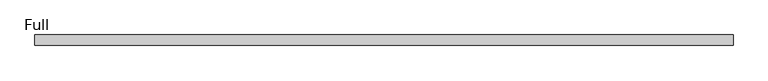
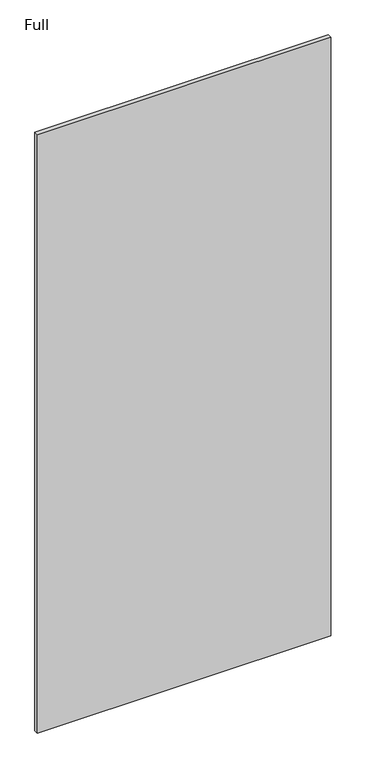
"""IFC4 building model written with IfcOpenShell, lengths in millimetres: proxy geometry, Panel-Fascia-Teknion-Altos-Standard : Full."""

import ifcopenshell
import ifcopenshell.guid

model = None  # the IFC model being written
_history = None  # IfcOwnerHistory: only IFC2X3 demands one
_inside = {}  # id of a spatial element -> (the spatial element, [elements in it])
_under = {}  # id of a project, library or spatial element -> (it, [spatial elements below it])
_declared = {}  # id of a project -> (the project, [libraries it declares])
_typed = {}  # id of a type object -> (the type object, [elements of that type])
_made_of = {}  # id of a material, layer set ... -> (it, [elements and type objects made of it])


def new_model(schema):
    """Start an empty IFC model of exactly this schema.

    Asked for "IFC4X3", IfcOpenShell would pick the latest addendum, in which some entities
    have other attributes; the version numbers below select the first issue.
    IFC2X3 requires an IfcOwnerHistory on every rooted entity: one is made here for all.
    """
    global model, _history
    if schema == "IFC4X3":
        model = ifcopenshell.file(schema_version=(4, 3, 0, 0))
    else:
        model = ifcopenshell.file(schema=schema)
    _inside.clear()
    _under.clear()
    _declared.clear()
    _typed.clear()
    _made_of.clear()
    _history = None
    if model.schema == "IFC2X3":
        org = make("IfcOrganization", Name="unknown")
        user = make(
            "IfcPersonAndOrganization",
            ThePerson=make("IfcPerson", FamilyName="unknown"),
            TheOrganization=org,
        )
        app = make(
            "IfcApplication",
            ApplicationDeveloper=org,
            Version="unknown",
            ApplicationFullName="unknown",
            ApplicationIdentifier="unknown",
        )
        _history = make(
            "IfcOwnerHistory",
            OwningUser=user,
            OwningApplication=app,
            ChangeAction="ADDED",
            CreationDate=0,
        )
    return model


def make(cls, **values):
    """One entity of the class cls with the attributes given. An attribute that is None is left unset."""
    return model.create_entity(
        cls, **{name: value for name, value in values.items() if value is not None}
    )


def rooted(cls, **values):
    """An entity with a GlobalId (a new one), such as an element, a storey or a relation."""
    return make(cls, GlobalId=ifcopenshell.guid.new(), OwnerHistory=_history, **values)


def si_unit(unit_type, name, prefix=None):
    """IfcSIUnit, for example si_unit("LENGTHUNIT", "METRE", prefix="MILLI")."""
    return make("IfcSIUnit", UnitType=unit_type, Prefix=prefix, Name=name)


def assignment(units):
    """IfcUnitAssignment: the units of a project."""
    return None if units is None else make("IfcUnitAssignment", Units=units)


def point(xyz):
    """IfcCartesianPoint."""
    return None if xyz is None else make("IfcCartesianPoint", Coordinates=xyz)


def direction(xyz):
    """IfcDirection."""
    return None if xyz is None else make("IfcDirection", DirectionRatios=xyz)


def frame(location, z_axis=None, x_axis=None):
    """IfcAxis2Placement3D, a coordinate frame: its origin and axes. An axis left out is left unset."""
    return make(
        "IfcAxis2Placement3D",
        Location=point(location),
        Axis=direction(z_axis),
        RefDirection=direction(x_axis),
    )


def origin():
    """The frame at (0, 0, 0) with its axes left unset."""
    return frame((0.0, 0.0, 0.0))


def place(relative_to, where):
    """IfcLocalPlacement: puts the frame where relative to a parent placement (None: the world)."""
    return make(
        "IfcLocalPlacement", PlacementRelTo=relative_to, RelativePlacement=where
    )


def context(
    kind, dimensions, precision=None, world=None, true_north=None, identifier=None
):
    """IfcGeometricRepresentationContext, for example the 3D "Model" context."""
    return make(
        "IfcGeometricRepresentationContext",
        ContextIdentifier=identifier,
        ContextType=kind,
        CoordinateSpaceDimension=dimensions,
        Precision=precision,
        WorldCoordinateSystem=world,
        TrueNorth=true_north,
    )


def project(units=None, contexts=None):
    """IfcProject with its units and contexts."""
    return rooted(
        "IfcProject",
        Name="project",
        RepresentationContexts=contexts,
        UnitsInContext=assignment(units),
    )


def spatial(cls, under=None, at=None, **own):
    """A site, building, storey or space (cls), placed at a placement, below another one or the project."""
    s = rooted(cls, ObjectPlacement=at, **own)
    if under is not None:
        _under.setdefault(under.id(), (under, []))[1].append(s)
    return s


def polyline(points):
    """IfcPolyline through the points."""
    return make("IfcPolyline", Points=[point(p) for p in points])


def outline(outer, holes=None, kind="AREA"):
    """IfcArbitraryClosedProfileDef: a profile drawn as a closed curve; with holes, ...WithVoids."""
    if holes is None:
        return make("IfcArbitraryClosedProfileDef", ProfileType=kind, OuterCurve=outer)
    return make(
        "IfcArbitraryProfileDefWithVoids",
        ProfileType=kind,
        OuterCurve=outer,
        InnerCurves=holes,
    )


def extrude(swept, where, along, depth):
    """IfcExtrudedAreaSolid: the profile swept, set in the frame where, extruded along a direction by depth."""
    return make(
        "IfcExtrudedAreaSolid",
        SweptArea=swept,
        Position=where,
        ExtrudedDirection=direction(along),
        Depth=depth,
    )


def shape(context_of_items, identifier, shape_type, items):
    """IfcShapeRepresentation: the items that make up one representation, for example the "Body"."""
    return make(
        "IfcShapeRepresentation",
        ContextOfItems=context_of_items,
        RepresentationIdentifier=identifier,
        RepresentationType=shape_type,
        Items=items,
    )


def source(mapping_origin, context_of_items, identifier, shape_type, items):
    """IfcRepresentationMap: a shape defined once, which mapped items show again and again."""
    return make(
        "IfcRepresentationMap",
        MappingOrigin=mapping_origin,
        MappedRepresentation=shape(context_of_items, identifier, shape_type, items),
    )


def transform(
    local_origin,
    x_axis=None,
    y_axis=None,
    z_axis=None,
    scale=None,
    scale2=None,
    scale3=None,
    uniform=True,
):
    """IfcCartesianTransformationOperator3D, or its non-uniform kind. x_axis, y_axis, z_axis: its Axis1, 2, 3."""
    if uniform:
        return make(
            "IfcCartesianTransformationOperator3D",
            Axis1=direction(x_axis),
            Axis2=direction(y_axis),
            LocalOrigin=point(local_origin),
            Scale=scale,
            Axis3=direction(z_axis),
        )
    return make(
        "IfcCartesianTransformationOperator3DnonUniform",
        Axis1=direction(x_axis),
        Axis2=direction(y_axis),
        LocalOrigin=point(local_origin),
        Scale=scale,
        Axis3=direction(z_axis),
        Scale2=scale2,
        Scale3=scale3,
    )


def mapped(mapping_source, mapping_target):
    """IfcMappedItem: shows the shape of a source again, moved by a transform."""
    return make(
        "IfcMappedItem", MappingSource=mapping_source, MappingTarget=mapping_target
    )


def made_of(thing, what):
    """Note that an element or type object is made of a material, layer set ...; save() writes the relation."""
    if what is not None:
        _made_of.setdefault(what.id(), (what, []))[1].append(thing)
    return thing


def element(
    cls,
    number,
    at=None,
    inside=None,
    cuts=None,
    type_object=None,
    material=None,
    context=None,
    identifier="Body",
    shape_type=None,
    held_by="IfcProductDefinitionShape",
    body=None,
    shapes=None,
    **own,
):
    """One element of the class cls, such as IfcWall. Its Tag is "e" and its number.

    at: its placement. inside: the storey or other place that contains it. cuts: it is an
    opening in that element (IfcRelVoidsElement). A single representation is given by context,
    identifier, shape_type and body (its items); several are given by shapes. held_by: the class
    of the entity that holds the representations. save() writes the other relations.
    """
    e = rooted(cls, Tag="e%d" % number, ObjectPlacement=at, **own)
    if body is not None:
        shapes = [shape(context, identifier, shape_type, body)]
    if shapes is not None:
        e.Representation = make(held_by, Representations=shapes)
    if inside is not None:
        _inside.setdefault(inside.id(), (inside, []))[1].append(e)
    if cuts is not None:
        rooted(
            "IfcRelVoidsElement", RelatingBuildingElement=cuts, RelatedOpeningElement=e
        )
    if type_object is not None:
        _typed.setdefault(type_object.id(), (type_object, []))[1].append(e)
    return made_of(e, material)


def aggregate(whole, parts):
    """IfcRelAggregates: a whole, such as a stair, and the parts it consists of."""
    return rooted("IfcRelAggregates", RelatingObject=whole, RelatedObjects=parts)


def save(model, path):
    """Write the relations noted so far, then the file.

    IfcRelAggregates (storeys below a building ...), IfcRelContainedInSpatialStructure (elements
    in a storey), IfcRelDefinesByType, IfcRelAssociatesMaterial and IfcRelDeclares: one each for
    every whole, place, type object, material and project.
    """
    for whole, parts in _under.values():
        aggregate(whole, parts)
    for where, things in _inside.values():
        rooted(
            "IfcRelContainedInSpatialStructure",
            RelatedElements=things,
            RelatingStructure=where,
        )
    for kind, things in _typed.values():
        rooted("IfcRelDefinesByType", RelatedObjects=things, RelatingType=kind)
    for what, things in _made_of.values():
        rooted("IfcRelAssociatesMaterial", RelatedObjects=things, RelatingMaterial=what)
    for by, libraries in _declared.values():
        rooted("IfcRelDeclares", RelatingContext=by, RelatedDefinitions=libraries)
    model.write(path)


def full_de6f7fca(model_context):
    return source(origin(), model_context, "Body", "SweptSolid", [
        extrude(outline(polyline([(635.0, 9.525), (635.0, -9.525), (-635.0, -9.525), (-635.0, 9.525), (635.0, 9.525)])), frame((0.0, 0.0, 3.175), z_axis=(0.0, 0.0, 1.0), x_axis=(1.0, 0.0, 0.0)), (0.0, 0.0, 1.0), 2739.136),
    ])


if __name__ == "__main__":
    model = new_model("IFC4")
    model_context = context("Model", 3, world=origin())
    ifc_project = project(units=[si_unit("LENGTHUNIT", "METRE", prefix="MILLI")], contexts=[model_context])
    site = spatial("IfcSite", under=ifc_project)
    building = spatial("IfcBuilding", under=site)
    placement = place(None, origin())
    full_shape = full_de6f7fca(model_context)
    element("IfcBuildingElementProxy", 1, Name="Panel-Fascia-Teknion-Altos-Standard : Full", ObjectType="Panel-Fascia-Teknion-Altos-Standard : Full", at=placement, inside=building, context=model_context, shape_type="MappedRepresentation", body=[
        mapped(full_shape, transform((0.0, 0.0, 0.0), x_axis=(1.0, 0.0, 0.0), y_axis=(0.0, 1.0, 0.0), z_axis=(0.0, 0.0, 1.0))),
    ])
    save(model, "model.ifc")
